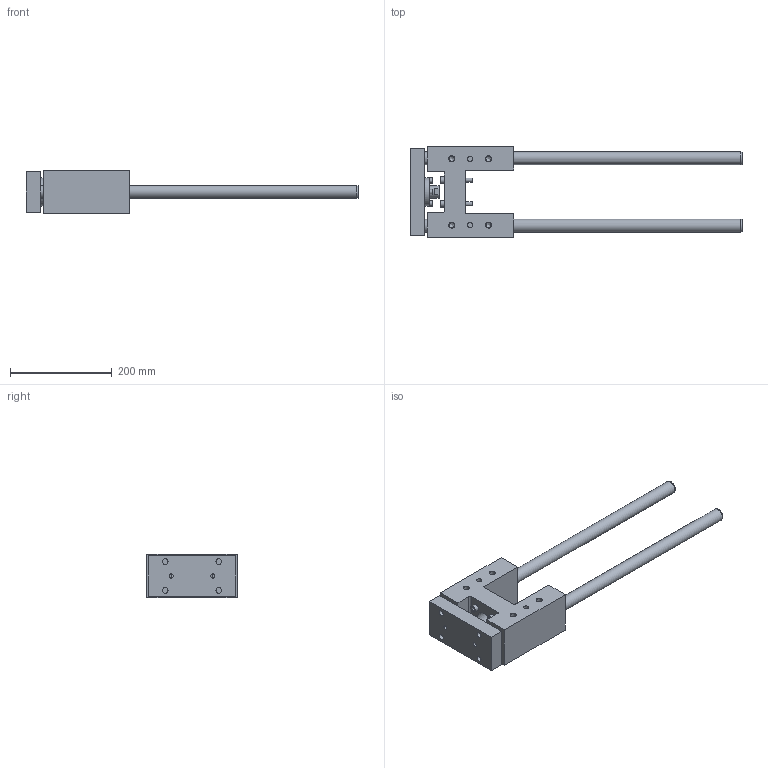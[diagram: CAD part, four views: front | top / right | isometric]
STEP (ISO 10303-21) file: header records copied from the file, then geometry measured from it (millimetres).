
FILE_DESCRIPTION( ( 'STEP AP214' ), '1' );
FILE_NAME( 'U:/Etudes/Top Solid/BIBLIO 3D AVM/TOP/PNEUMATIQUE/GUIDAGES/Type 32 (en H)/R_Renforcée/326R7_30.step', '2005-05-27T09:03:11', ( ' ' ), ( ' ' ), 'XStep 1.0', ' ', ' ' );
FILE_SCHEMA( ( 'automotive_design' ) );
Length unit declared in the file: metre
Products named in the file (2): 1; 2
Bounding box: 651 x 178 x 85 mm (x, y, z)
Volume: 2420818.4 mm3; surface area: 317629 mm2
Topology: 2 solids, 7 shells, 209 faces, 484 edges, 321 vertices
Faces by surface type: plane 118, cylinder 70, cone 21
Full cylindrical faces by diameter (mm): 6 x8, 6.5 x4, 8 x10, 8.376 x4, 9 x4, 10 x6, 10.106 x8, 11 x4, 13 x4, 14.376 x2, 18 x4, 24 x1, 25 x4, 26 x1, 34 x1, 37 x1, 40 x1, 55 x1
Entity records: 7089 total; most frequent: CARTESIAN_POINT 1103, DIRECTION 900, ORIENTED_EDGE 696, EDGE_LOOP 358, AXIS2_PLACEMENT_3D 349, EDGE_CURVE 348, VERTEX_POINT 280, FACE_OUTER_BOUND 277
